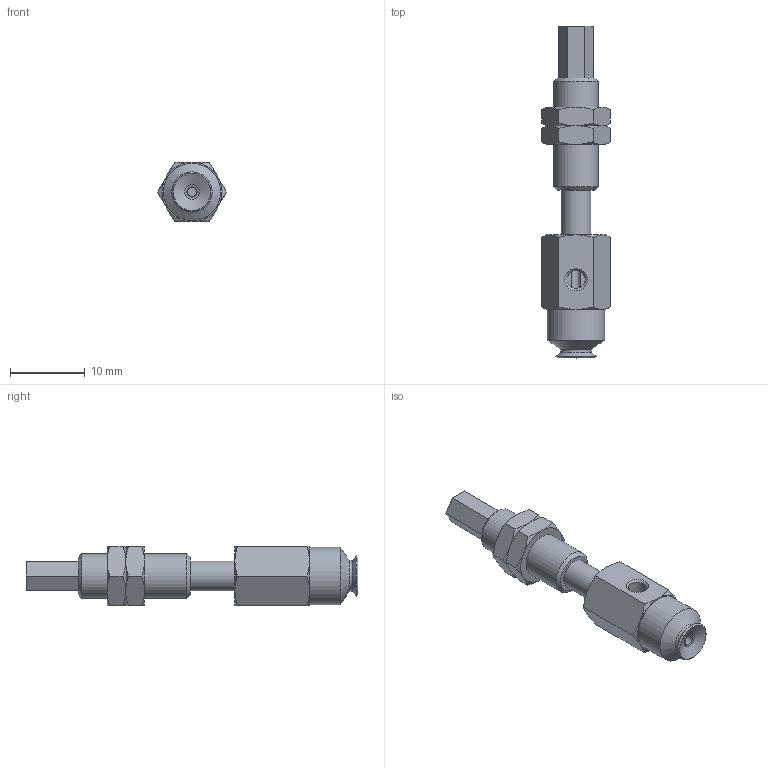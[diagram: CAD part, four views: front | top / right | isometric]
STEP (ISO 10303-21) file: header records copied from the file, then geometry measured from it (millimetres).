
FILE_DESCRIPTION(('STEP AP203'),'1');
FILE_NAME('.stp','2025-04-09T05:33:14',(' '),(' '),'Spatial InterOp 3D',' ',' ');
FILE_SCHEMA(('CONFIG_CONTROL_DESIGN'));
Length unit declared in the file: millimetre
Products named in the file (6): BNABPFYS-5A-6-※; CONNECTOR-5A-6; Nut-5A-6-s; NAPFTS-5A-6-FBODY; NAPFTS-5A-6-MBODY; BPFG-5A-※
Assembly tree (6 placements, depth 2):
  BNABPFYS-5A-6-※
    CONNECTOR-5A-6
    Nut-5A-6-s  x2
    NAPFTS-5A-6-FBODY
    NAPFTS-5A-6-MBODY
    BPFG-5A-※
Bounding box: 9.24 x 44.5 x 8 mm (x, y, z)
Volume: 1484.1 mm3; surface area: 2214.2 mm2
Topology: 6 solids, 6 shells, 131 faces, 279 edges, 166 vertices
Faces by surface type: plane 56, cone 52, cylinder 15, torus 7, bspline 1
Full cylindrical faces by diameter (mm): 1.2 x1, 1.4 x1, 2.459 x2, 3 x1, 4 x4, 5.188 x2, 6 x3, 7.7 x1
Entity records: 3193 total; most frequent: CARTESIAN_POINT 780, DIRECTION 442, ORIENTED_EDGE 378, AXIS2_PLACEMENT_3D 193, EDGE_CURVE 189, EDGE_LOOP 158, VERTEX_POINT 131, FACE_OUTER_BOUND 130
